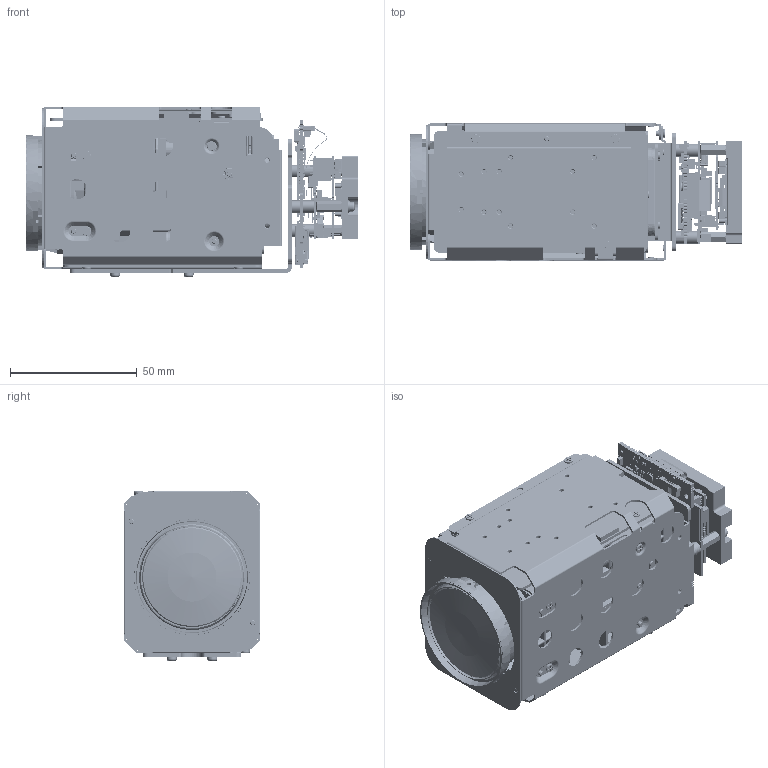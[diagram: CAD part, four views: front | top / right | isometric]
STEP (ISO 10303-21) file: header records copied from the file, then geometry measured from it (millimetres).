
FILE_DESCRIPTION( ( 'Unknown' ), '1' );
FILE_NAME( 'Q:/2003/Product3DCADModels/STEP-test/mm-ap29c01-0140-0101.stp', 'Unknown', ( 'Unknown' ), ( 'Unknown' ), 'PSStep 17.0.49', 'Unknown', ' ' );
FILE_SCHEMA( ( 'AUTOMOTIVE_DESIGN { 1 0 10303 214 1 1 1 1 }' ) );
Length unit declared in the file: millimetre
Products named in the file (767): DF033N0000-129-_X2_5F8C90E893E1_ASM; _X2_5F8C90E893E17B52_X0__1_4; _X2_5F8C90E893E17B52_X0__2_4; _X2_5F8C90E893E17B52_X0__3_4; _X2_30B230FC30C8_X0__1_4; _X2_30B230FC30C8_X0__2_4; _X2_30B230FC30C8_X0__3_4; Lead-2; Open_CASCADE_STEP_translator_6.8_1.2.1; DF033N0000-771-IR_X2_30E130FC30_ASM; _X2_30EC30D030FC_X0_2__X2_306E7; _X2_53D64ED890E8_X0__4; _X2_30A830F330B830F3_X0___X2_30; DF033N0000-317-_X2_76EE96A03057_ASM; _X2_906E514930B730FC30C8_X0___X; _X2_7C9877406750_X0___X2_30A230; DF033N0000-900-_X2_30E130A430F3_ASM; _X2_88CF62533061_X0_A_1_4; _X2_88CF62533061_X0_A_2_4; _X2_88CF62533061_X0_A_3_4; _X2_88CF62533061_X0_A_4_4; _X2_88CF62533061_X0_A_5_4; _X2_88CF62533061_X0_A_6_4; _X2_88CF62533061_X0_B_2_4; _X2_88CF62533061_X0_B_3_4; _X2_88CF62533061_X0_B_4_4; _X2_30E130A430F3_X0_FPC-01__X2_; Lead-3; DF033N0000-316-_X2_76EE96A03057_ASM; 1_0_X2_664265B95411_X0___X2_7C9; 1_0_X2_664265B95411_X0___X2_906; 2__X2_FF13664265B95411_X-324876; 2__X2_FF13664265B95411_X-325158; 3__X2_FF19664265B95411_X-325308; 3__X2_FF19664265B95411_X-325458; Lead-7; DF033N0000-Y01-_X2_5B8C621054C1_ASM; _X2_591689B3752830AB30D730C-211; _X2_591689B3752830AB30D730C-363; _X2_591689B3752830AB30D730C-513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
Assembly tree (1736 placements, depth 8):
  Assem1
    G-806-048H  x4
    flexi-01
    G-875-322T  x3
    G-106-321A  x3
    heatsink-0389-02
    G-977-016Z  x3
    G-915-068V  x3
    G-080-752R  x3
    bracket-assy
      bracket-0378-02
      G-373-916V  x3
      G-513-075C  x3
    AS-CAM-40LHD
      000_40LHD_ASM_409_ASM
        355037038_PLATE_BRACKET_180
        360037020_RUBBER_SENSOR_50
        71B687110_PCB_SENSOR_100
        837102062_TS_CH_M2X6_6  x3
        365837060S_SPACER_BRKT_PCB_128
        837002042A_TS_CH_M2X4_2  x5
        PCB_MAIN_40LHD_114
        817002032_MS_CH_M2X3_3  x4
        323037112S_CHASSIS_BOTTOM_126
        323037110S_CHASSIS_TOP_129
        817002032A_MS_CH_M2X3_2  x7
        363037018_SHEET_CHASSIS_5
        DF033N0000-ALLASSY_ASM_17_ASM
          DF033N0000-A01-_X2_5B8C621054C1_ASM
            DF033N0000-127-_X2_4E3B93E17B52
            DF033N0000-401-_X2_30DE30A630F3
            DF033N0000-711-_X2_30A230A430EA
            DF033N0000-731-ZA_X2_30B930C630
            DF033N0000-741-ZB_X2_30B930C630  x2
            DF033N0000-751-F_X2_30B930C630C
            DF016NJ000-176F-M2WASHER_4  x4
            ND011F0-419-QR_X2_30B730FC30EB_
            BT2P1_7X4_0C3C_4  x13
            BT2P1_7X5_0B3C_4  x16
            BT2P1_4X2_5B3C_4  x11
            DF033N0000-Y01-_X2_5B8C621054C1_ASM
              _X2_591689B3752830AB30D730C-211
              _X2_591689B3752830AB30D730C-363
              _X2_591689B3752830AB30D730C-513
              _X2_591689B3752830AB30D730C-653
            DF033N0000-A02-1_X2_7FA4_X0_ASS_ASM
              DF03300000-G01-G01_4
              DF033N0000-121-_1_X2_7FA430EC30
            DF033N0000-A08-_X2_5F8C90E893E1_ASM
              DF033N0000-129-_X2_5F8C90E893E1_ASM
                _X2_5F8C90E893E17B52_X0__1_4
                _X2_5F8C90E893E17B52_X0__2_4
                _X2_5F8C90E893E17B52_X0__3_4
                _X2_30B230FC30C8_X0__1_4
                _X2_30B230FC30C8_X0__2_4
                _X2_30B230FC30C8_X0__3_4
            DF033N0000-A09-_X2_30D530A330EB_ASM
              DF033N0000-151-_X2_30D530A330EB
              DF02800000-G14-IRC_X2_30D530A33
              DF02800000-G15-_X2_30C030DF30FC
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Bounding box: 131.03 x 54 x 67.14 mm (x, y, z)
Volume: 103748.9 mm3; surface area: 207810.6 mm2
Topology: 1326 solids, 1327 shells, 32109 faces, 81094 edges, 51563 vertices
Faces by surface type: plane 20635, cylinder 7008, torus 1231, bspline 1187, cone 1179, sphere 609, revolution 165, extrusion 95
Full cylindrical faces by diameter (mm): 0.041 x1, 0.1 x184, 0.14 x1, 0.15 x1, 0.2 x2, 0.25 x1, 0.4 x2, 0.5 x1, 0.519 x1, 0.6 x8, 0.7 x12, 0.75 x16, 0.8 x8, 0.9 x8, 1 x4, 1.09 x1, 1.1 x2, 1.12 x2, 1.15 x11, 1.2 x11, 1.3 x2, 1.4 x13, 1.45 x35, 1.5 x67, 1.567 x3, 1.6 x57, 1.7 x38, 1.8 x21, 1.85 x5, 1.9 x8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
Entity records: 886018 total; most frequent: CARTESIAN_POINT 205404, DIRECTION 101970, ORIENTED_EDGE 101749, EDGE_CURVE 50875, AXIS2_PLACEMENT_3D 34708, VERTEX_POINT 32794, VECTOR 32494, LINE 32399
